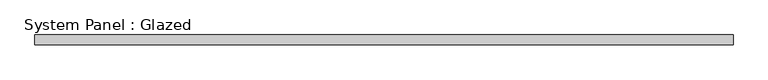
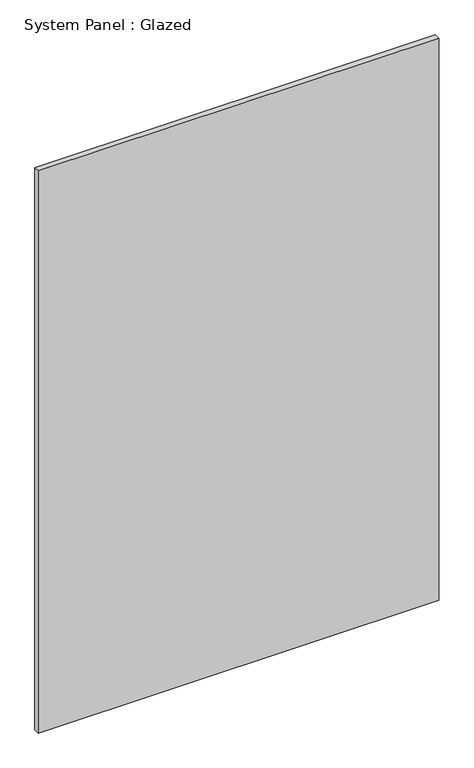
"""IFC4 building model written with IfcOpenShell, lengths in millimetres: plate geometry, System Panel : Glazed."""

from ifc_helpers import new_model, si_unit, origin, origin_with_axes, place, context, project, spatial, polyline, outline, extrude, source, transform, mapped, element, save


def system_panel_glazed_1889c2f3(model_context):
    return source(origin(), model_context, "Body", "SweptSolid", [
        extrude(outline(polyline([(907.033577, 19.05), (-907.033577, 19.05), (-907.033577, 44.45), (907.033577, 44.45), (907.033577, 19.05)])), origin_with_axes(), (0.0, 0.0, 1.0), 2692.4),
    ])


if __name__ == "__main__":
    model = new_model("IFC4")
    model_context = context("Model", 3, world=origin())
    ifc_project = project(units=[si_unit("LENGTHUNIT", "METRE", prefix="MILLI")], contexts=[model_context])
    site = spatial("IfcSite", under=ifc_project)
    building = spatial("IfcBuilding", under=site)
    placement = place(None, origin())
    system_panel_glazed_shape = system_panel_glazed_1889c2f3(model_context)
    element("IfcPlate", 1, ObjectType="System Panel : Glazed", at=placement, inside=building, context=model_context, shape_type="MappedRepresentation", body=[
        mapped(system_panel_glazed_shape, transform((0.0, 0.0, 0.0), x_axis=(1.0, 0.0, 0.0), y_axis=(0.0, 1.0, 0.0), z_axis=(0.0, 0.0, 1.0))),
    ])
    save(model, "model.ifc")
